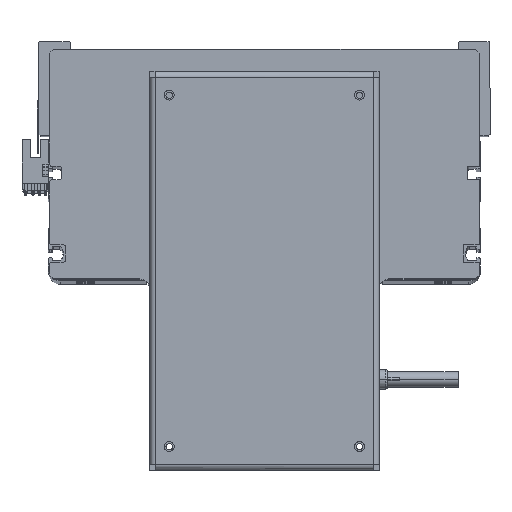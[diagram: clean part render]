
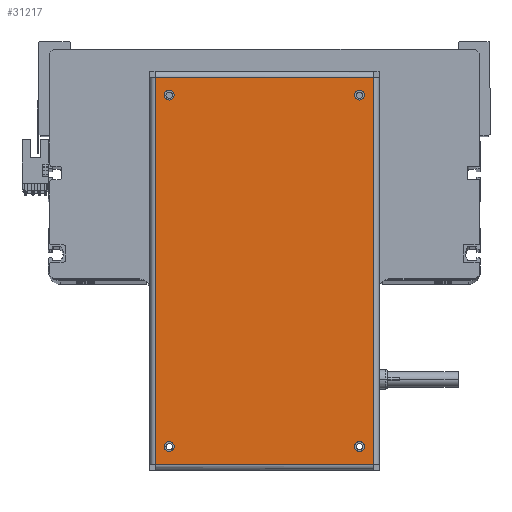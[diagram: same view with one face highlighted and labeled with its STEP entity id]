
A CAD part, top view. The second image highlights one B-rep face of the part: STEP entity #31217.
In plain terms, the highlighted planar face has unit normal (0, 0, 1).
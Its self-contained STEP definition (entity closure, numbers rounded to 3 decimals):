
#664 = VERTEX_POINT ( 'NONE', #15496 ) ;
#896 = DIRECTION ( 'NONE',  ( 0., 0., 1. ) ) ;
#1005 = EDGE_CURVE ( 'NONE', #39843, #12687, #7491, .T. ) ;
#1040 = CARTESIAN_POINT ( 'NONE',  ( 89.55, -48.5, 0. ) ) ;
#1045 = CARTESIAN_POINT ( 'NONE',  ( -87.05, -48.5, 0. ) ) ;
#1436 = CIRCLE ( 'NONE', #2538, 2.5 ) ;
#1788 = EDGE_CURVE ( 'NONE', #14283, #34324, #1436, .T. ) ;
#1954 = DIRECTION ( 'NONE',  ( 0., -1., 0. ) ) ;
#2538 = AXIS2_PLACEMENT_3D ( 'NONE', #1040, #896, #26009 ) ;
#2584 = CIRCLE ( 'NONE', #17216, 2.5 ) ;
#3024 = EDGE_LOOP ( 'NONE', ( #34344, #5903 ) ) ;
#3117 = EDGE_CURVE ( 'NONE', #4388, #38272, #10702, .T. ) ;
#3828 = ORIENTED_EDGE ( 'NONE', *, *, #27780, .F. ) ;
#4248 = EDGE_CURVE ( 'NONE', #38272, #4388, #18991, .T. ) ;
#4388 = VERTEX_POINT ( 'NONE', #4824 ) ;
#4477 = AXIS2_PLACEMENT_3D ( 'NONE', #19424, #19564, #16130 ) ;
#4824 = CARTESIAN_POINT ( 'NONE',  ( -92.05, -48.5, 0. ) ) ;
#5903 = ORIENTED_EDGE ( 'NONE', *, *, #31039, .F. ) ;
#6501 = AXIS2_PLACEMENT_3D ( 'NONE', #36119, #10159, #13337 ) ;
#6714 = VECTOR ( 'NONE', #14125, 1000. ) ;
#6812 = DIRECTION ( 'NONE',  ( 1., 0., 0. ) ) ;
#7253 = EDGE_CURVE ( 'NONE', #24347, #39843, #21218, .T. ) ;
#7491 = LINE ( 'NONE', #30559, #35980 ) ;
#7675 = ORIENTED_EDGE ( 'NONE', *, *, #7253, .T. ) ;
#7795 = FACE_BOUND ( 'NONE', #22395, .T. ) ;
#8354 = ORIENTED_EDGE ( 'NONE', *, *, #40082, .T. ) ;
#8581 = EDGE_LOOP ( 'NONE', ( #40576, #30495 ) ) ;
#10133 = CARTESIAN_POINT ( 'NONE',  ( 89.55, 48.5, 0. ) ) ;
#10159 = DIRECTION ( 'NONE',  ( 0., 0., 1. ) ) ;
#10702 = CIRCLE ( 'NONE', #23661, 2.5 ) ;
#10755 = CARTESIAN_POINT ( 'NONE',  ( -98.65, -55.6, 0. ) ) ;
#11597 = EDGE_LOOP ( 'NONE', ( #39823, #8354, #34437, #7675 ) ) ;
#11815 = CARTESIAN_POINT ( 'NONE',  ( 98.65, -55.6, 0. ) ) ;
#12478 = DIRECTION ( 'NONE',  ( 0., 0., -1. ) ) ;
#12687 = VERTEX_POINT ( 'NONE', #10755 ) ;
#12836 = AXIS2_PLACEMENT_3D ( 'NONE', #18386, #12478, #34172 ) ;
#13188 = AXIS2_PLACEMENT_3D ( 'NONE', #10133, #35275, #38440 ) ;
#13337 = DIRECTION ( 'NONE',  ( 1., 0., 0. ) ) ;
#14125 = DIRECTION ( 'NONE',  ( 1., 0., 0. ) ) ;
#14283 = VERTEX_POINT ( 'NONE', #34401 ) ;
#14645 = ORIENTED_EDGE ( 'NONE', *, *, #24908, .F. ) ;
#14939 = ORIENTED_EDGE ( 'NONE', *, *, #1788, .F. ) ;
#15173 = CIRCLE ( 'NONE', #6501, 2.5 ) ;
#15496 = CARTESIAN_POINT ( 'NONE',  ( 87.05, 48.5, 0. ) ) ;
#16130 = DIRECTION ( 'NONE',  ( 1., 0., 0. ) ) ;
#16869 = ORIENTED_EDGE ( 'NONE', *, *, #36189, .F. ) ;
#17068 = FACE_OUTER_BOUND ( 'NONE', #11597, .T. ) ;
#17216 = AXIS2_PLACEMENT_3D ( 'NONE', #33799, #40259, #34188 ) ;
#18386 = CARTESIAN_POINT ( 'NONE',  ( 98.75, 58.5, 0. ) ) ;
#18668 = PLANE ( 'NONE',  #12836 ) ;
#18745 = CARTESIAN_POINT ( 'NONE',  ( 89.55, -48.5, 0. ) ) ;
#18991 = CIRCLE ( 'NONE', #4477, 2.5 ) ;
#19424 = CARTESIAN_POINT ( 'NONE',  ( -89.55, -48.5, 0. ) ) ;
#19564 = DIRECTION ( 'NONE',  ( 0., 0., 1. ) ) ;
#20410 = CIRCLE ( 'NONE', #38164, 2.5 ) ;
#20683 = EDGE_CURVE ( 'NONE', #34915, #24347, #35909, .T. ) ;
#21218 = LINE ( 'NONE', #33487, #38455 ) ;
#21287 = DIRECTION ( 'NONE',  ( 0., 1., 0. ) ) ;
#21885 = DIRECTION ( 'NONE',  ( 0., 0., 1. ) ) ;
#22322 = CIRCLE ( 'NONE', #13188, 2.5 ) ;
#22349 = DIRECTION ( 'NONE',  ( 0., 0., 1. ) ) ;
#22395 = EDGE_LOOP ( 'NONE', ( #3828, #14645 ) ) ;
#22717 = CARTESIAN_POINT ( 'NONE',  ( -89.55, -48.5, 0. ) ) ;
#23661 = AXIS2_PLACEMENT_3D ( 'NONE', #22717, #29687, #38100 ) ;
#24347 = VERTEX_POINT ( 'NONE', #38891 ) ;
#24908 = EDGE_CURVE ( 'NONE', #664, #37696, #22322, .T. ) ;
#25543 = EDGE_LOOP ( 'NONE', ( #16869, #14939 ) ) ;
#25809 = LINE ( 'NONE', #35699, #6714 ) ;
#26009 = DIRECTION ( 'NONE',  ( 1., 0., 0. ) ) ;
#27780 = EDGE_CURVE ( 'NONE', #37696, #664, #2584, .T. ) ;
#28781 = CARTESIAN_POINT ( 'NONE',  ( 92.05, 48.5, 0. ) ) ;
#29388 = FACE_BOUND ( 'NONE', #25543, .T. ) ;
#29578 = CARTESIAN_POINT ( 'NONE',  ( 98.65, -55.6, 0. ) ) ;
#29687 = DIRECTION ( 'NONE',  ( 0., 0., 1. ) ) ;
#30495 = ORIENTED_EDGE ( 'NONE', *, *, #3117, .F. ) ;
#30559 = CARTESIAN_POINT ( 'NONE',  ( -98.65, 55.6, 0. ) ) ;
#31039 = EDGE_CURVE ( 'NONE', #31078, #36282, #15173, .T. ) ;
#31078 = VERTEX_POINT ( 'NONE', #32121 ) ;
#31115 = DIRECTION ( 'NONE',  ( -1., 0., 0. ) ) ;
#31217 = ADVANCED_FACE ( 'NONE', ( #33846, #37263, #29388, #7795, #17068 ), #18668, .F. ) ;
#32121 = CARTESIAN_POINT ( 'NONE',  ( -92.05, 48.5, 0. ) ) ;
#33487 = CARTESIAN_POINT ( 'NONE',  ( 98.75, 55.6, 0. ) ) ;
#33799 = CARTESIAN_POINT ( 'NONE',  ( 89.55, 48.5, 0. ) ) ;
#33846 = FACE_BOUND ( 'NONE', #8581, .T. ) ;
#33893 = EDGE_CURVE ( 'NONE', #36282, #31078, #20410, .T. ) ;
#34172 = DIRECTION ( 'NONE',  ( -1., 0., 0. ) ) ;
#34188 = DIRECTION ( 'NONE',  ( 1., 0., 0. ) ) ;
#34324 = VERTEX_POINT ( 'NONE', #38589 ) ;
#34344 = ORIENTED_EDGE ( 'NONE', *, *, #33893, .F. ) ;
#34394 = VECTOR ( 'NONE', #21287, 1000. ) ;
#34401 = CARTESIAN_POINT ( 'NONE',  ( 87.05, -48.5, 0. ) ) ;
#34437 = ORIENTED_EDGE ( 'NONE', *, *, #20683, .T. ) ;
#34841 = CARTESIAN_POINT ( 'NONE',  ( -89.55, 48.5, 0. ) ) ;
#34915 = VERTEX_POINT ( 'NONE', #29578 ) ;
#35275 = DIRECTION ( 'NONE',  ( 0., 0., 1. ) ) ;
#35699 = CARTESIAN_POINT ( 'NONE',  ( -98.75, -55.6, 0. ) ) ;
#35909 = LINE ( 'NONE', #11815, #34394 ) ;
#35980 = VECTOR ( 'NONE', #1954, 1000. ) ;
#36119 = CARTESIAN_POINT ( 'NONE',  ( -89.55, 48.5, 0. ) ) ;
#36189 = EDGE_CURVE ( 'NONE', #34324, #14283, #37421, .T. ) ;
#36282 = VERTEX_POINT ( 'NONE', #38640 ) ;
#37263 = FACE_BOUND ( 'NONE', #3024, .T. ) ;
#37421 = CIRCLE ( 'NONE', #40454, 2.5 ) ;
#37423 = DIRECTION ( 'NONE',  ( 1., 0., 0. ) ) ;
#37696 = VERTEX_POINT ( 'NONE', #28781 ) ;
#38100 = DIRECTION ( 'NONE',  ( 1., 0., 0. ) ) ;
#38164 = AXIS2_PLACEMENT_3D ( 'NONE', #34841, #22349, #6812 ) ;
#38272 = VERTEX_POINT ( 'NONE', #1045 ) ;
#38440 = DIRECTION ( 'NONE',  ( 1., 0., 0. ) ) ;
#38455 = VECTOR ( 'NONE', #31115, 1000. ) ;
#38589 = CARTESIAN_POINT ( 'NONE',  ( 92.05, -48.5, 0. ) ) ;
#38640 = CARTESIAN_POINT ( 'NONE',  ( -87.05, 48.5, 0. ) ) ;
#38891 = CARTESIAN_POINT ( 'NONE',  ( 98.65, 55.6, 0. ) ) ;
#39823 = ORIENTED_EDGE ( 'NONE', *, *, #1005, .T. ) ;
#39843 = VERTEX_POINT ( 'NONE', #40395 ) ;
#40082 = EDGE_CURVE ( 'NONE', #12687, #34915, #25809, .T. ) ;
#40259 = DIRECTION ( 'NONE',  ( 0., 0., 1. ) ) ;
#40395 = CARTESIAN_POINT ( 'NONE',  ( -98.65, 55.6, 0. ) ) ;
#40454 = AXIS2_PLACEMENT_3D ( 'NONE', #18745, #21885, #37423 ) ;
#40576 = ORIENTED_EDGE ( 'NONE', *, *, #4248, .F. ) ;
